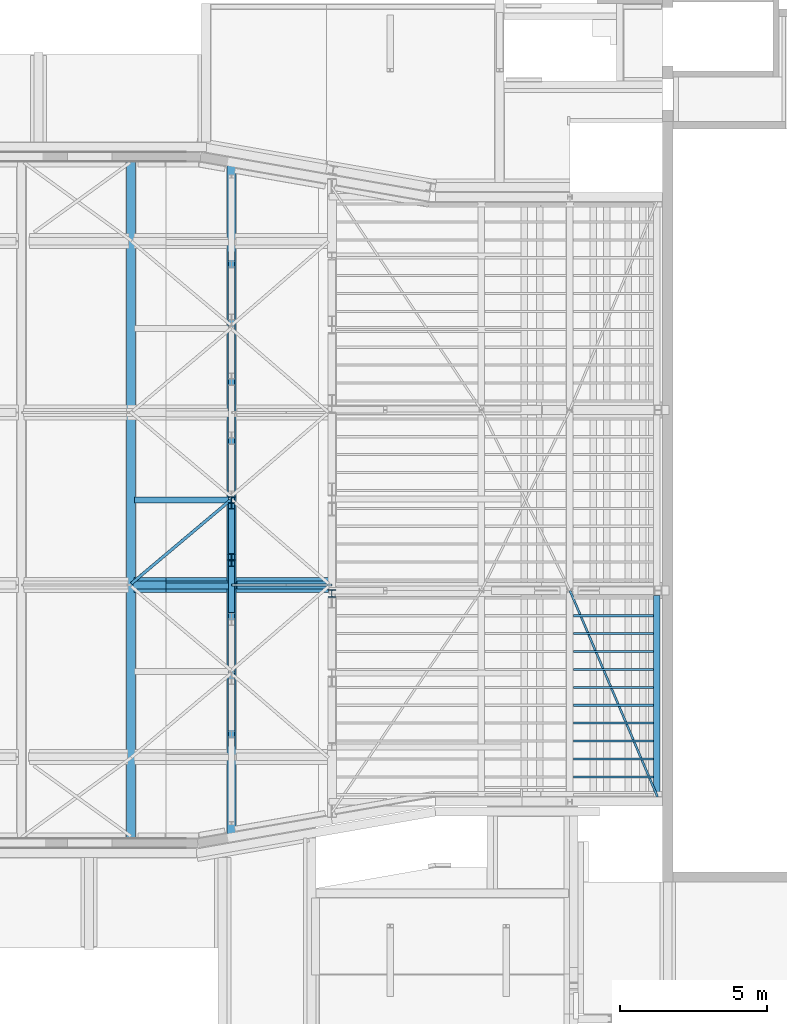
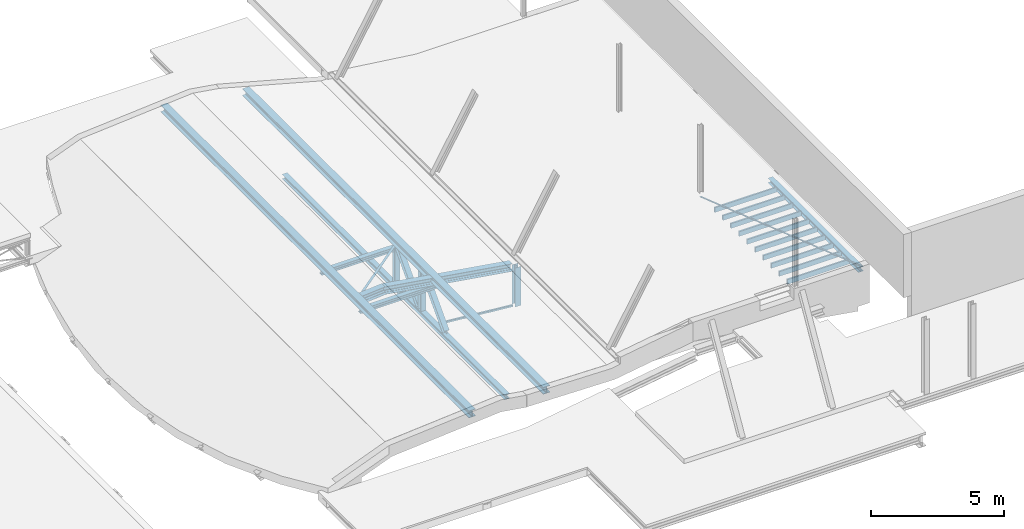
# One storey, part 27 of 50: 27 beams.
"""IFC2X3 building model written with IfcOpenShell, lengths in millimetres."""

from ifc_helpers import new_model, entity, si_unit, converted_unit, derived_unit, direction, frame, frame_2d, origin, place, context, subcontext, project, spatial, polyline, circle_curve, parameter, trimmed, segment, composite_curve, rectangle, i_section, outline, extrude, clip, halfspace, source, transform, mapped, material, material_list, type_object, type_shapes, element, save


model = new_model("IFC2X3")

# Units and contexts
model_context = context("Model", 3, precision=0.01, world=origin(), true_north=direction((6.12303176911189e-17, 1.0)))
body_context = subcontext(model_context, "Body", "Model", "MODEL_VIEW")
ifc_project = project(units=[si_unit("LENGTHUNIT", "METRE", prefix="MILLI"), si_unit("AREAUNIT", "SQUARE_METRE", prefix="MILLI"), si_unit("VOLUMEUNIT", "CUBIC_METRE"), converted_unit("PLANEANGLEUNIT", "DEGREE", entity("IfcRatioMeasure", 0.0174532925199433), si_unit("PLANEANGLEUNIT", "RADIAN"), dimensions=[0, 0, 0, 0, 0, 0, 0]), si_unit("MASSUNIT", "GRAM", prefix="KILO"), derived_unit("MASSDENSITYUNIT", [(si_unit("MASSUNIT", "GRAM", prefix="KILO"), 1), (si_unit("LENGTHUNIT", "METRE"), -3)]), derived_unit("MOMENTOFINERTIAUNIT", [(si_unit("LENGTHUNIT", "METRE"), 4)]), si_unit("TIMEUNIT", "SECOND"), si_unit("FREQUENCYUNIT", "HERTZ"), si_unit("THERMODYNAMICTEMPERATUREUNIT", "DEGREE_CELSIUS"), derived_unit("THERMALTRANSMITTANCEUNIT", [(si_unit("MASSUNIT", "GRAM", prefix="KILO"), 1), (si_unit("THERMODYNAMICTEMPERATUREUNIT", "KELVIN"), -1), (si_unit("TIMEUNIT", "SECOND"), -3)]), derived_unit("VOLUMETRICFLOWRATEUNIT", [(si_unit("LENGTHUNIT", "METRE"), 3), (si_unit("TIMEUNIT", "SECOND"), -1)]), si_unit("ELECTRICCURRENTUNIT", "AMPERE"), si_unit("ELECTRICVOLTAGEUNIT", "VOLT"), si_unit("POWERUNIT", "WATT"), si_unit("FORCEUNIT", "NEWTON", prefix="KILO"), si_unit("ILLUMINANCEUNIT", "LUX"), si_unit("LUMINOUSFLUXUNIT", "LUMEN"), si_unit("LUMINOUSINTENSITYUNIT", "CANDELA"), derived_unit("USERDEFINED", [(si_unit("MASSUNIT", "GRAM", prefix="KILO"), -1), (si_unit("LENGTHUNIT", "METRE"), -2), (si_unit("TIMEUNIT", "SECOND"), 3), (si_unit("LUMINOUSFLUXUNIT", "LUMEN"), 1)]), derived_unit("LINEARVELOCITYUNIT", [(si_unit("LENGTHUNIT", "METRE"), 1), (si_unit("TIMEUNIT", "SECOND"), -1)]), si_unit("PRESSUREUNIT", "PASCAL"), derived_unit("USERDEFINED", [(si_unit("LENGTHUNIT", "METRE"), -2), (si_unit("MASSUNIT", "GRAM", prefix="KILO"), 1), (si_unit("TIMEUNIT", "SECOND"), -2)]), derived_unit("LINEARFORCEUNIT", [(si_unit("MASSUNIT", "GRAM", prefix="KILO"), 1), (si_unit("LENGTHUNIT", "METRE"), 1), (si_unit("TIMEUNIT", "SECOND"), -2), (si_unit("LENGTHUNIT", "METRE"), -1)]), derived_unit("PLANARFORCEUNIT", [(si_unit("MASSUNIT", "GRAM", prefix="KILO"), 1), (si_unit("LENGTHUNIT", "METRE"), 1), (si_unit("TIMEUNIT", "SECOND"), -2), (si_unit("LENGTHUNIT", "METRE"), -2)])], contexts=[model_context])

# Site, building, storey
site_placement = place(None, origin())
site = spatial("IfcSite", under=ifc_project, at=site_placement, Name="Theater aan de Parade", CompositionType="ELEMENT")
building_placement = place(site_placement, origin())
building = spatial("IfcBuilding", under=site, at=building_placement, Name="Theater aan de Parade", CompositionType="ELEMENT")
storey_placement = place(building_placement, frame((0.0, 0.0, 15820.0)))
storey = spatial("IfcBuildingStorey", under=building, at=storey_placement, Name="04 vierde verdieping", CompositionType="ELEMENT", Elevation=15820.0)

# Beams
ifc_material_1 = material(Name="00_PBT_MAT_staal_S355")
beam_type_1 = type_object("IfcBeamType", Name="28_PBT_SF_staal_H-profiel:S355_HE220B", PredefinedType="NOTDEFINED")
beam_1_placement = place(storey_placement, frame((52739.1873742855, 24480.2202940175, -650.0), z_axis=(0.0, 0.0, 1.0), x_axis=(0.0, 1.0, 0.0)))
element("IfcBeam", 1, at=beam_1_placement, inside=storey, type_object=beam_type_1, material=ifc_material_1, Name="28_PBT_SF_staal_H-profiel:S355_HE220B", ObjectType="28_PBT_SF_staal_H-profiel:S355_HE220B", context=body_context, shape_type="SweptSolid", body=[
    extrude(i_section(OverallWidth=220.000000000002, OverallDepth=220.0, WebThickness=9.49999999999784, FlangeThickness=15.9999999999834, FilletRadius=17.9999999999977, at=frame_2d((-3.24718030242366e-12, -8.66862137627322e-12), x_axis=(0.0, 1.0))), frame((-421.121382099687, 0.0, 0.0), z_axis=(1.0, 0.0, 0.0), x_axis=(0.0, 0.0, -1.0)), (0.0, 0.0, 1.0), 16782.6370772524),
])
beam_type_2 = type_object("IfcBeamType", Name="28_PBT_SF_staal_H-profiel:S355_HE220A", PredefinedType="NOTDEFINED")
beam_2_placement = place(storey_placement, frame((67166.05603639, 29346.916549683, 0.0), z_axis=(0.0, 0.0, 1.0), x_axis=(0.0, -1.0, 0.0)))
element("IfcBeam", 2, at=beam_2_placement, inside=storey, type_object=beam_type_2, material=ifc_material_1, Name="28_PBT_SF_staal_H-profiel:S355_HE220A", ObjectType="28_PBT_SF_staal_H-profiel:S355_HE220A", context=body_context, shape_type="SweptSolid", body=[
    extrude(outline(composite_curve([segment(polyline([(94.0, -110.0), (105.0, -110.0)]), True, "CONTINUOUS"), segment(polyline([(105.0, -110.0), (105.0, 110.0)]), True, "CONTINUOUS"), segment(polyline([(105.0, 110.0), (94.0, 110.0)]), True, "CONTINUOUS"), segment(polyline([(94.0, 110.0), (94.0, 21.4999999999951)]), True, "CONTINUOUS"), segment(trimmed(circle_curve(frame_2d((76.0, 21.4999999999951), x_axis=(1.0, 0.0)), 17.9999999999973), [parameter(269.999999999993)], [parameter(0.0)], True, "PARAMETER"), False, "CONTINUOUS"), segment(polyline([(76.0, 3.49999999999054), (-76.0, 3.49999999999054)]), True, "CONTINUOUS"), segment(trimmed(circle_curve(frame_2d((-76.0, 21.4999999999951), x_axis=(0.0, -1.0)), 17.9999999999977), [parameter(269.999999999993)], [parameter(0.0)], True, "PARAMETER"), False, "CONTINUOUS"), segment(polyline([(-94.0, 21.4999999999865), (-94.0, 110.0)]), True, "CONTINUOUS"), segment(polyline([(-94.0, 110.0), (-105.0, 110.0)]), True, "CONTINUOUS"), segment(polyline([(-105.0, 110.0), (-105.0, -110.0)]), True, "CONTINUOUS"), segment(polyline([(-105.0, -110.0), (-94.0, -110.0)]), True, "CONTINUOUS"), segment(polyline([(-94.0, -110.0), (-94.0, -21.5000000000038)]), True, "CONTINUOUS"), segment(trimmed(circle_curve(frame_2d((-76.0, -21.5000000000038), x_axis=(-1.0, 0.0)), 17.9999999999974), [parameter(269.999999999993)], [parameter(0.0)], True, "PARAMETER"), False, "CONTINUOUS"), segment(polyline([(-76.0, -3.50000000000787), (76.0, -3.50000000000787)]), True, "CONTINUOUS"), segment(trimmed(circle_curve(frame_2d((76.0, -21.5000000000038), x_axis=(0.0, 1.0)), 17.9999999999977), [parameter(269.999999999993)], [parameter(0.0)], True, "PARAMETER"), False, "CONTINUOUS"), segment(polyline([(94.0, -21.5000000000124), (94.0, -110.0)]), True, "CONTINUOUS")], self_intersect=False)), frame((162.699999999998, 0.0, 1195.0), z_axis=(1.0, 0.0, 0.0), x_axis=(0.0, 0.0, -1.0)), (0.0, 0.0, 1.0), 6831.51654968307),
])
beam_3_placement = place(storey_placement, frame((52739.1873742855, 32420.0, -650.0), z_axis=(1.0, 0.0, 0.0), x_axis=(0.0, 0.0, 1.0)))
element("IfcBeam", 3, at=beam_3_placement, inside=storey, type_object=beam_type_2, material=ifc_material_1, Name="28_PBT_SF_staal_H-profiel:S355_HE220A", ObjectType="28_PBT_SF_staal_H-profiel:S355_HE220A", context=body_context, shape_type="SweptSolid", body=[
    extrude(i_section(OverallWidth=220.000000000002, OverallDepth=210.000000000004, WebThickness=6.99999999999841, FlangeThickness=10.9999999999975, FilletRadius=17.9999999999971, at=frame_2d((8.66862137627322e-12, -8.66862137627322e-12), x_axis=(1.0, 0.0))), frame((122.700000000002, 0.0, 0.0), z_axis=(1.0, 0.0, 0.0), x_axis=(0.0, 0.0, -1.0)), (0.0, 0.0, 1.0), 1834.6),
])
beam_4_placement = place(storey_placement, frame((52739.1873742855, 30480.2202940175, -650.0), z_axis=(1.0, 0.0, 0.0), x_axis=(0.0, 0.0, 1.0)))
element("IfcBeam", 4, at=beam_4_placement, inside=storey, type_object=beam_type_2, material=ifc_material_1, Name="28_PBT_SF_staal_H-profiel:S355_HE220A", ObjectType="28_PBT_SF_staal_H-profiel:S355_HE220A", context=body_context, shape_type="SweptSolid", body=[
    extrude(i_section(OverallWidth=220.000000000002, OverallDepth=210.000000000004, WebThickness=6.99999999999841, FlangeThickness=10.9999999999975, FilletRadius=17.9999999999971, at=frame_2d((8.66862137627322e-12, 0.0), x_axis=(1.0, 0.0))), frame((122.700000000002, 0.0, 0.0), z_axis=(1.0, 0.0, 0.0), x_axis=(0.0, 0.0, -1.0)), (0.0, 0.0, 1.0), 1834.6),
])
beam_5_placement = place(storey_placement, frame((52739.1873742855, 30480.2202940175, -650.0), z_axis=(1.0, 0.0, 0.0), x_axis=(0.0, 0.673321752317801, 0.739349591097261)))
element("IfcBeam", 5, at=beam_5_placement, inside=storey, type_object=beam_type_2, material=ifc_material_1, Name="28_PBT_SF_staal_H-profiel:S355_HE220A", ObjectType="28_PBT_SF_staal_H-profiel:S355_HE220A", context=body_context, shape_type="Clipping", body=[
    clip(clip(clip(clip(extrude(i_section(OverallWidth=220.000000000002, OverallDepth=210.000000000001, WebThickness=6.99999999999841, FlangeThickness=10.9999999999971, FilletRadius=17.9999999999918, at=frame_2d((8.66862137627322e-12, -6.12487838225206e-12), x_axis=(1.0, 0.0))), frame((180.280665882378, 0.0, 0.0), z_axis=(1.0, 0.0, 0.0), x_axis=(0.0, 0.0, -1.0)), (0.0, 0.0, 1.0), 2483.38168846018), halfspace(frame((-4240.83168904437, 4849.77228786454, 130.0), z_axis=(-0.73934959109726, -0.673321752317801, 0.0), x_axis=(0.673321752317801, -0.73934959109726, 0.0)), False)), halfspace(frame((160.09642204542, -23.2685549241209, -130.0), z_axis=(-0.673321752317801, 0.739349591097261, 0.0), x_axis=(0.739349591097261, 0.673321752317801, 0.0)), False)), halfspace(frame((1297.86185470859, -1272.60648958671, 130.0), z_axis=(0.673321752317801, -0.739349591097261, 0.0), x_axis=(0.739349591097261, 0.673321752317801, 0.0)), False)), halfspace(frame((-4906.86453641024, 8284.13499098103, -170.0), z_axis=(0.739349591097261, 0.673321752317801, 0.0), x_axis=(0.673321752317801, -0.739349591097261, 0.0)), False)),
])
beam_6_placement = place(storey_placement, frame((52739.1873742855, 28480.2202940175, -650.0), z_axis=(1.0, 0.0, 0.0), x_axis=(0.0, 0.684510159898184, 0.72900332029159)))
element("IfcBeam", 6, at=beam_6_placement, inside=storey, type_object=beam_type_2, material=ifc_material_1, Name="28_PBT_SF_staal_H-profiel:S355_HE220A", ObjectType="28_PBT_SF_staal_H-profiel:S355_HE220A", context=body_context, shape_type="Clipping", body=[
    clip(clip(clip(clip(extrude(i_section(OverallWidth=220.000000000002, OverallDepth=209.999999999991, WebThickness=6.99999999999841, FlangeThickness=10.9999999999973, FilletRadius=17.9999999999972, at=frame_2d((8.66862137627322e-12, -1.22497567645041e-11), x_axis=(1.0, 0.0))), frame((180.334201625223, 0.0, 0.0), z_axis=(1.0, 0.0, 0.0), x_axis=(0.0, 0.0, -1.0)), (0.0, 0.0, 1.0), 2524.67882275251), halfspace(frame((-2945.22227575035, 3326.57855415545, 130.0), z_axis=(-0.729003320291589, -0.684510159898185, 0.0), x_axis=(0.684510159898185, -0.729003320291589, 0.0)), False)), halfspace(frame((160.432410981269, -20.8262216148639, -130.0), z_axis=(-0.684510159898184, 0.72900332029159, 0.0), x_axis=(0.72900332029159, 0.684510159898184, 0.0)), False)), halfspace(frame((1358.32519080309, -1296.58203212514, 130.0), z_axis=(0.684510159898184, -0.72900332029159, 0.0), x_axis=(0.72900332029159, 0.684510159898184, 0.0)), False)), halfspace(frame((-3663.51237141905, 6750.39313277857, -170.0), z_axis=(0.72900332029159, 0.684510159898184, 0.0), x_axis=(0.684510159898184, -0.72900332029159, 0.0)), False)),
])
beam_type_3 = type_object("IfcBeamType", Name="28_PBT_SF_staal_H-profiel:S355_HE200A", PredefinedType="NOTDEFINED")
beam_7_placement = place(storey_placement, frame((52889.1873742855, 29510.0, 0.0), z_axis=(0.0, 0.0, 1.0), x_axis=(-1.0, 0.0, 0.0)))
element("IfcBeam", 7, at=beam_7_placement, inside=storey, type_object=beam_type_3, material=ifc_material_1, Name="28_PBT_SF_staal_H-profiel:S355_HE200A", ObjectType="28_PBT_SF_staal_H-profiel:S355_HE200A", context=body_context, shape_type="SweptSolid", body=[
    extrude(i_section(OverallWidth=199.999999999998, OverallDepth=190.0, WebThickness=6.50000000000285, FlangeThickness=9.99999999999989, FilletRadius=18.0000000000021, at=frame_2d((2.16715534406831e-12, 2.16715534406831e-12), x_axis=(0.0, 1.0))), frame((0.0, 0.0, 1165.0), z_axis=(1.0, 0.0, 0.0), x_axis=(0.0, 0.0, -1.0)), (0.0, 0.0, 1.0), 3432.76164612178),
])
beam_8_placement = place(storey_placement, frame((52629.1873742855, 32420.0, 0.0), z_axis=(0.0, 0.0, 1.0), x_axis=(-1.0, 0.0, 0.0)))
element("IfcBeam", 8, at=beam_8_placement, inside=storey, type_object=beam_type_3, material=ifc_material_1, Name="28_PBT_SF_staal_H-profiel:S355_HE200A", ObjectType="28_PBT_SF_staal_H-profiel:S355_HE200A", context=body_context, shape_type="SweptSolid", body=[
    extrude(i_section(OverallWidth=199.999999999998, OverallDepth=190.0, WebThickness=6.50000000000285, FlangeThickness=9.99999999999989, FilletRadius=18.0000000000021, at=frame_2d((2.16715534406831e-12, 2.16715534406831e-12), x_axis=(0.0, 1.0))), frame((0.0, 0.0, 1165.0), z_axis=(1.0, 0.0, 0.0), x_axis=(0.0, 0.0, -1.0)), (0.0, 0.0, 1.0), 3184.18737428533),
])
ifc_material_2 = material(Name="00_PBT_MAT_Lucht")
ifc_material_list_1 = material_list([ifc_material_1, ifc_material_2])
beam_type_4 = type_object("IfcBeamType", Name="28_PBT_SF_staal_H-profiel_met_onderplaat (void):S355_HE260A + onderplaat d=12", PredefinedType="BEAM", material=ifc_material_list_1)
shared_shape_1 = source(origin(), body_context, "Body", "SweptSolid", [
    extrude(rectangle(XDim=12.0, YDim=510.0, at=frame_2d((5.07593966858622e-13, -1.4210854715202e-14), x_axis=(1.0, 0.0))), frame((-1590.0, 0.0, -131.0), z_axis=(1.0, 0.0, 0.0), x_axis=(0.0, 0.0, -1.0)), (0.0, 0.0, 1.0), 3180.0),
    extrude(i_section(OverallWidth=260.0, OverallDepth=250.0, WebThickness=7.49999999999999, FlangeThickness=12.4999999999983, FilletRadius=24.0, at=frame_2d((-4.12114786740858e-13, 0.0), x_axis=(0.0, 1.0))), frame((-1590.0, 0.0, 0.0), z_axis=(1.0, 0.0, 0.0), x_axis=(0.0, 0.0, -1.0)), (0.0, 0.0, 1.0), 3180.0),
])
type_shapes(beam_type_4, [shared_shape_1])
beam_9_placement = place(storey_placement, frame((54484.223271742, 29537.9879914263, 1188.53047227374), z_axis=(0.156434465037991, 0.0, 0.987688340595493), x_axis=(0.987688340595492, 0.0, -0.156434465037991)))
element("IfcBeam", 9, at=beam_9_placement, inside=storey, type_object=beam_type_4, material=ifc_material_1, Name="28_PBT_SF_staal_H-profiel_met_onderplaat (void):S355_HE260A + onderplaat d=12", ObjectType="28_PBT_SF_staal_H-profiel_met_onderplaat (void):S355_HE260A + onderplaat d=12", context=body_context, shape_type="MappedRepresentation", body=[
    mapped(shared_shape_1, transform((0.0, 0.0, 0.0), scale=1.0)),
])
ifc_material_3 = material(Name="00_PBT_MAT_staal")
beam_type_5 = type_object("IfcBeamType", Name="28_PBT_SF_staal_strip:strip 100x10", PredefinedType="NOTDEFINED")
beam_10_placement = place(storey_placement, frame((49341.9024959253, 29584.2106497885, 1589.46746619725), z_axis=(0.045084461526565, 0.0379427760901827, 0.99826235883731), x_axis=(0.763774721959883, 0.642787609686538, -0.0589259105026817)))
element("IfcBeam", 10, at=beam_10_placement, inside=storey, type_object=beam_type_5, material=ifc_material_3, Name="28_PBT_SF_staal_strip:strip 100x10", ObjectType="28_PBT_SF_staal_strip:strip 100x10", context=body_context, shape_type="SweptSolid", body=[
    extrude(rectangle(XDim=9.99999999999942, YDim=100.000000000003, at=frame_2d((0.0, 0.0), x_axis=(0.0, 1.0))), frame((0.0, 0.247653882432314, -4.99386298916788), z_axis=(1.0, 0.0, 0.0), x_axis=(0.0, -0.998772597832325, -0.0495307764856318)), (0.0, 0.0, 1.0), 4430.68427961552),
])
ifc_material_list_2 = material_list([ifc_material_2, ifc_material_1])
beam_type_6 = type_object("IfcBeamType", Name="28_PBT_SF_staal_H-profiel_met_onderplaat (void):S355_HE260A + onderplaat d=12", PredefinedType="BEAM", material=ifc_material_list_2)
shared_shape_2 = source(origin(), body_context, "Body", "Clipping", [
    clip(extrude(i_section(OverallWidth=260.000000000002, OverallDepth=250.000000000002, WebThickness=7.50000000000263, FlangeThickness=12.5000000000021, FilletRadius=23.9999999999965, at=frame_2d((-2.1600499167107e-12, 3.21875859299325e-12), x_axis=(1.0, 0.0))), frame((50495.0112438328, 29537.9879914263, 17640.3595866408), z_axis=(0.987688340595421, 0.0, -0.156434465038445), x_axis=(0.0, 1.0, 0.0)), (0.0, 0.0, 1.0), 2131.09008589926), halfspace(frame((50514.5655519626, 32410.0, 23110.0), z_axis=(-1.0, 0.0, 0.0), x_axis=(0.0, 0.0, 1.0)), False)),
    clip(extrude(rectangle(XDim=12.0000000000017, YDim=510.000000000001, at=frame_2d((-2.1600499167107e-12, 1.0689227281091e-12), x_axis=(0.0, 1.0))), frame((50513.6269451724, 29537.9879914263, 17504.7782177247), z_axis=(0.987688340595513, 0.0, -0.156434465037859), x_axis=(0.0, 1.0, 0.0)), (0.0, 0.0, 1.0), 2091.49397581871), halfspace(frame((50514.5655519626, 32410.0, 23110.0), z_axis=(-1.0, 0.0, 0.0), x_axis=(0.0, 0.0, 1.0)), False)),
])
type_shapes(beam_type_6, [shared_shape_2])
beam_11_placement = place(storey_placement, frame((0.0, 0.0, -15820.0)))
element("IfcBeam", 11, at=beam_11_placement, inside=storey, type_object=beam_type_6, material=ifc_material_1, Name="28_PBT_SF_staal_H-profiel_met_onderplaat (void):S355_HE260A + onderplaat d=12", ObjectType="28_PBT_SF_staal_H-profiel_met_onderplaat (void):S355_HE260A + onderplaat d=12", context=body_context, shape_type="MappedRepresentation", body=[
    mapped(shared_shape_2, transform((0.0, 0.0, 0.0), scale=1.0)),
])
ifc_material_list_3 = material_list([ifc_material_1, ifc_material_2])
beam_type_7 = type_object("IfcBeamType", Name="28_PBT_SF_staal_H-profiel_met_onderplaat (void):S355_HE260A + onderplaat d=12", PredefinedType="BEAM", material=ifc_material_list_3)
shared_shape_3 = source(origin(), body_context, "Body", "Clipping", [
    clip(extrude(i_section(OverallWidth=260.000000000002, OverallDepth=250.0, WebThickness=7.50000000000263, FlangeThickness=12.499999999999, FilletRadius=23.9999999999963, at=frame_2d((6.49436060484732e-12, 1.08002495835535e-12), x_axis=(1.0, 0.0))), frame((49416.4124148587, 29537.9879914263, 17553.5190495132), z_axis=(0.996820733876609, 0.0, 0.079677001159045), x_axis=(0.0, -1.0, 0.0)), (0.0, 0.0, 1.0), 1111.64698384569), halfspace(frame((50514.5655519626, 32410.0, 23110.0), z_axis=(1.0, 0.0, 0.0), x_axis=(0.0, 0.0, 1.0)), False)),
    clip(extrude(rectangle(XDim=11.9999999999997, YDim=510.000000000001, at=frame_2d((2.1600499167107e-12, 1.07913677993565e-12), x_axis=(0.0, 1.0))), frame((49426.8501020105, 29537.9879914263, 17422.9355333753), z_axis=(0.99682073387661, 0.0, 0.0796770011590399), x_axis=(0.0, -1.0, 0.0)), (0.0, 0.0, 1.0), 1091.66420297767), halfspace(frame((50514.5655519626, 32410.0, 23110.0), z_axis=(1.0, 0.0, 0.0), x_axis=(0.0, 0.0, 1.0)), False)),
])
type_shapes(beam_type_7, [shared_shape_3])
beam_12_placement = place(storey_placement, frame((0.0, 0.0, -15820.0)))
element("IfcBeam", 12, at=beam_12_placement, inside=storey, type_object=beam_type_7, material=ifc_material_1, Name="28_PBT_SF_staal_H-profiel_met_onderplaat (void):S355_HE260A + onderplaat d=12", ObjectType="28_PBT_SF_staal_H-profiel_met_onderplaat (void):S355_HE260A + onderplaat d=12", context=body_context, shape_type="MappedRepresentation", body=[
    mapped(shared_shape_3, transform((0.0, 0.0, 0.0), scale=1.0)),
])
ifc_material_4 = material(Name="00_PBT_MAT_hout")
beam_type_8 = type_object("IfcBeamType", Name="28_PBT_SF_rechthoekig hout:70x220", PredefinedType="NOTDEFINED")
beam_13_placement = place(storey_placement, frame((67166.05603639, 23032.0, 0.0), z_axis=(0.0, 0.0, 1.0), x_axis=(-1.0, 0.0, 0.0)))
element("IfcBeam", 13, at=beam_13_placement, inside=storey, type_object=beam_type_8, material=ifc_material_4, Name="28_PBT_SF_rechthoekig hout:70x220", ObjectType="28_PBT_SF_rechthoekig hout:70x220", context=body_context, shape_type="SweptSolid", body=[
    extrude(rectangle(XDim=220.0, YDim=70.0000000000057, at=frame_2d((1.08002495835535e-12, 2.16715534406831e-12), x_axis=(1.0, 0.0))), frame((122.700000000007, 0.0, 1212.0), z_axis=(1.0, 0.0, 0.0), x_axis=(0.0, 0.0, -1.0)), (0.0, 0.0, 1.0), 2704.6),
])
beam_14_placement = place(storey_placement, frame((67166.05603639, 23639.0, 0.0), z_axis=(0.0, 0.0, 1.0), x_axis=(-1.0, 0.0, 0.0)))
element("IfcBeam", 14, at=beam_14_placement, inside=storey, type_object=beam_type_8, material=ifc_material_4, Name="28_PBT_SF_rechthoekig hout:70x220", ObjectType="28_PBT_SF_rechthoekig hout:70x220", context=body_context, shape_type="SweptSolid", body=[
    extrude(rectangle(XDim=220.0, YDim=70.0000000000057, at=frame_2d((1.08002495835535e-12, -2.16715534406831e-12), x_axis=(1.0, 0.0))), frame((122.700000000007, 0.0, 1212.0), z_axis=(1.0, 0.0, 0.0), x_axis=(0.0, 0.0, -1.0)), (0.0, 0.0, 1.0), 2704.6),
])
beam_15_placement = place(storey_placement, frame((67166.05603639, 24246.0, 0.0), z_axis=(0.0, 0.0, 1.0), x_axis=(-1.0, 0.0, 0.0)))
element("IfcBeam", 15, at=beam_15_placement, inside=storey, type_object=beam_type_8, material=ifc_material_4, Name="28_PBT_SF_rechthoekig hout:70x220", ObjectType="28_PBT_SF_rechthoekig hout:70x220", context=body_context, shape_type="SweptSolid", body=[
    extrude(rectangle(XDim=220.0, YDim=70.0000000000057, at=frame_2d((1.08002495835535e-12, 2.16715534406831e-12), x_axis=(1.0, 0.0))), frame((122.700000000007, 0.0, 1212.0), z_axis=(1.0, 0.0, 0.0), x_axis=(0.0, 0.0, -1.0)), (0.0, 0.0, 1.0), 2704.6),
])
beam_16_placement = place(storey_placement, frame((67166.05603639, 24853.0, 0.0), z_axis=(0.0, 0.0, 1.0), x_axis=(-1.0, 0.0, 0.0)))
element("IfcBeam", 16, at=beam_16_placement, inside=storey, type_object=beam_type_8, material=ifc_material_4, Name="28_PBT_SF_rechthoekig hout:70x220", ObjectType="28_PBT_SF_rechthoekig hout:70x220", context=body_context, shape_type="SweptSolid", body=[
    extrude(rectangle(XDim=220.0, YDim=70.0000000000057, at=frame_2d((1.08002495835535e-12, -2.16715534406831e-12), x_axis=(1.0, 0.0))), frame((122.700000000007, 0.0, 1212.0), z_axis=(1.0, 0.0, 0.0), x_axis=(0.0, 0.0, -1.0)), (0.0, 0.0, 1.0), 2704.6),
])
beam_17_placement = place(storey_placement, frame((67166.05603639, 25460.0, 0.0), z_axis=(0.0, 0.0, 1.0), x_axis=(-1.0, 0.0, 0.0)))
element("IfcBeam", 17, at=beam_17_placement, inside=storey, type_object=beam_type_8, material=ifc_material_4, Name="28_PBT_SF_rechthoekig hout:70x220", ObjectType="28_PBT_SF_rechthoekig hout:70x220", context=body_context, shape_type="SweptSolid", body=[
    extrude(rectangle(XDim=220.0, YDim=70.0000000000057, at=frame_2d((1.08002495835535e-12, 2.16715534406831e-12), x_axis=(1.0, 0.0))), frame((122.700000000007, 0.0, 1212.0), z_axis=(1.0, 0.0, 0.0), x_axis=(0.0, 0.0, -1.0)), (0.0, 0.0, 1.0), 2704.6),
])
beam_18_placement = place(storey_placement, frame((67166.05603639, 26067.0, 0.0), z_axis=(0.0, 0.0, 1.0), x_axis=(-1.0, 0.0, 0.0)))
element("IfcBeam", 18, at=beam_18_placement, inside=storey, type_object=beam_type_8, material=ifc_material_4, Name="28_PBT_SF_rechthoekig hout:70x220", ObjectType="28_PBT_SF_rechthoekig hout:70x220", context=body_context, shape_type="SweptSolid", body=[
    extrude(rectangle(XDim=220.0, YDim=70.0000000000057, at=frame_2d((1.08002495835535e-12, -2.16715534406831e-12), x_axis=(1.0, 0.0))), frame((122.700000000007, 0.0, 1212.0), z_axis=(1.0, 0.0, 0.0), x_axis=(0.0, 0.0, -1.0)), (0.0, 0.0, 1.0), 2704.6),
])
beam_19_placement = place(storey_placement, frame((67166.05603639, 26674.0, 0.0), z_axis=(0.0, 0.0, 1.0), x_axis=(-1.0, 0.0, 0.0)))
element("IfcBeam", 19, at=beam_19_placement, inside=storey, type_object=beam_type_8, material=ifc_material_4, Name="28_PBT_SF_rechthoekig hout:70x220", ObjectType="28_PBT_SF_rechthoekig hout:70x220", context=body_context, shape_type="SweptSolid", body=[
    extrude(rectangle(XDim=220.0, YDim=70.0000000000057, at=frame_2d((1.08002495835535e-12, 2.16715534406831e-12), x_axis=(1.0, 0.0))), frame((122.700000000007, 0.0, 1212.0), z_axis=(1.0, 0.0, 0.0), x_axis=(0.0, 0.0, -1.0)), (0.0, 0.0, 1.0), 2704.6),
])
beam_20_placement = place(storey_placement, frame((67166.05603639, 27281.0, 0.0), z_axis=(0.0, 0.0, 1.0), x_axis=(-1.0, 0.0, 0.0)))
element("IfcBeam", 20, at=beam_20_placement, inside=storey, type_object=beam_type_8, material=ifc_material_4, Name="28_PBT_SF_rechthoekig hout:70x220", ObjectType="28_PBT_SF_rechthoekig hout:70x220", context=body_context, shape_type="SweptSolid", body=[
    extrude(rectangle(XDim=220.0, YDim=70.0000000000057, at=frame_2d((1.08002495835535e-12, -2.16715534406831e-12), x_axis=(1.0, 0.0))), frame((122.700000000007, 0.0, 1212.0), z_axis=(1.0, 0.0, 0.0), x_axis=(0.0, 0.0, -1.0)), (0.0, 0.0, 1.0), 2704.6),
])
for number, where, z_axis, x_axis, name in (
    (21, (67166.05603639, 27888.0, 0.0), (0.0, 0.0, 1.0), (-1.0, 0.0, 0.0), "28_PBT_SF_rechthoekig hout:70x220"),
    (22, (67166.05603639, 28495.0, 0.0), (0.0, 0.0, 1.0), (-1.0, 0.0, 0.0), "28_PBT_SF_rechthoekig hout:70x220"),
):
    element("IfcBeam", number, at=place(storey_placement, frame(where, z_axis=z_axis, x_axis=x_axis)), inside=storey, type_object=beam_type_8, material=ifc_material_4, Name=name, ObjectType="28_PBT_SF_rechthoekig hout:70x220", context=body_context, shape_type="SweptSolid", body=[
        extrude(rectangle(XDim=220.0, YDim=70.0000000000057, at=frame_2d((1.08002495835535e-12, 2.16715534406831e-12), x_axis=(1.0, 0.0))), frame((122.700000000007, 0.0, 1212.0), z_axis=(1.0, 0.0, 0.0), x_axis=(0.0, 0.0, -1.0)), (0.0, 0.0, 1.0), 2704.6),
    ])
beam_type_9 = type_object("IfcBeamType", Name="28_PBT_SF_staal_strip:strip 70x7", PredefinedType="NOTDEFINED")
beam_21_placement = place(storey_placement, frame((67187.55603639, 22352.6999999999, 0.0), z_axis=(0.0, 0.0, 1.0), x_axis=(-0.390882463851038, 0.920440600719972, 0.0)))
element("IfcBeam", 23, at=beam_21_placement, inside=storey, type_object=beam_type_9, material=ifc_material_3, Name="28_PBT_SF_staal_strip:strip 70x7", ObjectType="28_PBT_SF_staal_strip:strip 70x7", context=body_context, shape_type="SweptSolid", body=[
    extrude(rectangle(XDim=6.99999999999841, YDim=70.0000000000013, at=frame_2d((1.08291153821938e-12, 0.0), x_axis=(1.0, 0.0))), frame((0.0, 0.0, 1349.5), z_axis=(1.0, 0.0, 0.0), x_axis=(0.0, 0.0, -1.0)), (0.0, 0.0, 1.0), 7602.02944569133),
])
beam_type_10 = type_object("IfcBeamType", Name="28_PBT_SF_staal_H-profiel:S355_HE320B", PredefinedType="NOTDEFINED")
beam_22_placement = place(storey_placement, frame((52739.1873742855, 20880.2202940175, 1480.0), z_axis=(0.0, 0.0, 1.0), x_axis=(0.0, 1.0, 0.0)))
element("IfcBeam", 24, at=beam_22_placement, inside=storey, type_object=beam_type_10, material=ifc_material_1, Name="28_PBT_SF_staal_H-profiel:S355_HE320B", ObjectType="28_PBT_SF_staal_H-profiel:S355_HE320B", context=body_context, shape_type="SweptSolid", body=[
    extrude(i_section(OverallWidth=300.000000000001, OverallDepth=320.000000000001, WebThickness=11.4999999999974, FlangeThickness=20.4999999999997, FilletRadius=27.0000000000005, at=frame_2d((2.17426077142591e-12, 0.0), x_axis=(0.0, 1.0))), frame((191.229553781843, 0.0, 0.0), z_axis=(1.0, 0.0, 0.0), x_axis=(0.0, 0.0, -1.0)), (0.0, 0.0, 1.0), 22697.1003044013),
])
beam_23_placement = place(storey_placement, frame((49335.0, 20630.0, 1750.0), z_axis=(0.0, 0.0, 1.0), x_axis=(0.0, 1.0, 0.0)))
element("IfcBeam", 25, at=beam_23_placement, inside=storey, type_object=beam_type_10, material=ifc_material_1, Name="28_PBT_SF_staal_H-profiel:S355_HE320B", ObjectType="28_PBT_SF_staal_H-profiel:S355_HE320B", context=body_context, shape_type="SweptSolid", body=[
    extrude(i_section(OverallWidth=300.000000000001, OverallDepth=320.000000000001, WebThickness=11.4999999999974, FlangeThickness=20.4999999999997, FilletRadius=27.0000000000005, at=frame_2d((-2.17426077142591e-12, 0.0), x_axis=(0.0, 1.0))), frame((162.699999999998, 0.0, 0.0), z_axis=(1.0, 0.0, 0.0), x_axis=(0.0, 0.0, -1.0)), (0.0, 0.0, 1.0), 23254.6),
])
beam_type_11 = type_object("IfcBeamType", Name="28_PBT_SF_staal_H-profiel:S355_HE260A", PredefinedType="NOTDEFINED")
beam_24_placement = place(storey_placement, frame((56143.3747485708, 29250.0, -960.0), z_axis=(1.0, 0.0, 0.0), x_axis=(0.0, 0.0, 1.0)))
element("IfcBeam", 26, at=beam_24_placement, inside=storey, type_object=beam_type_11, material=ifc_material_1, Name="28_PBT_SF_staal_H-profiel:S355_HE260A", ObjectType="28_PBT_SF_staal_H-profiel:S355_HE260A", context=body_context, shape_type="SweptSolid", body=[
    extrude(i_section(OverallWidth=260.000000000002, OverallDepth=249.999999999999, WebThickness=7.49999999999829, FlangeThickness=12.4999999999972, FilletRadius=24.0000000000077, at=frame_2d((4.32009983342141e-12, -2.16715534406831e-12), x_axis=(1.0, 0.0))), frame((212.699999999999, 0.0, 0.0), z_axis=(1.0, 0.0, 0.0), x_axis=(0.0, 0.0, -1.0)), (0.0, 0.0, 1.0), 1799.6),
])
beam_type_12 = type_object("IfcBeamType", Name="28_PBT_SF_staal_koker:S355_K80x80x5", PredefinedType="NOTDEFINED")
beam_25_placement = place(storey_placement, frame((52739.1873742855, 29537.9879914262, -650.0), z_axis=(0.090689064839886, 0.0, 0.99587925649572), x_axis=(0.99587925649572, 0.0, -0.090689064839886)))
element("IfcBeam", 27, at=beam_25_placement, inside=storey, type_object=beam_type_12, material=ifc_material_1, Name="28_PBT_SF_staal_koker:S355_K80x80x5", ObjectType="28_PBT_SF_staal_koker:S355_K80x80x5", context=body_context, shape_type="SweptSolid", body=[
    extrude(outline(composite_curve([segment(polyline([(-32.4999999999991, -40.0), (32.5000000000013, -40.0)]), True, "CONTINUOUS"), segment(trimmed(circle_curve(frame_2d((32.5000000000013, -32.5000000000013), x_axis=(0.0, 1.0)), 7.5), [parameter(180.0)], [parameter(270.0)], True, "PARAMETER"), True, "CONTINUOUS"), segment(polyline([(40.0, -32.5000000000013), (40.0, 32.5000000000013)]), True, "CONTINUOUS"), segment(trimmed(circle_curve(frame_2d((32.5000000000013, 32.499999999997), x_axis=(0.0, 1.0)), 7.5), [parameter(270.0)], [parameter(360.0)], True, "PARAMETER"), True, "CONTINUOUS"), segment(polyline([(32.5000000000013, 40.0), (-32.4999999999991, 40.0)]), True, "CONTINUOUS"), segment(trimmed(circle_curve(frame_2d((-32.4999999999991, 32.4999999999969), x_axis=(0.0, 1.0)), 7.5), [parameter(0.0)], [parameter(90.0000000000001)], True, "PARAMETER"), True, "CONTINUOUS"), segment(polyline([(-40.0, 32.5000000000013), (-40.0, -32.5000000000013)]), True, "CONTINUOUS"), segment(trimmed(circle_curve(frame_2d((-32.4999999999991, -32.5000000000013), x_axis=(0.0, 1.0)), 7.5), [parameter(90.0)], [parameter(180.0)], True, "PARAMETER"), True, "CONTINUOUS")], self_intersect=False), holes=[composite_curve([segment(polyline([(35.0, 30.0), (35.0, -30.0)]), True, "CONTINUOUS"), segment(trimmed(circle_curve(frame_2d((30.0, -30.0), x_axis=(0.0, 1.0)), 5.0), [parameter(180.0)], [parameter(270.0)], True, "PARAMETER"), False, "CONTINUOUS"), segment(polyline([(30.0, -35.0), (-30.0, -35.0)]), True, "CONTINUOUS"), segment(trimmed(circle_curve(frame_2d((-30.0, -30.0), x_axis=(0.0, 1.0)), 5.0), [parameter(90.0)], [parameter(180.0)], True, "PARAMETER"), False, "CONTINUOUS"), segment(polyline([(-35.0, -30.0), (-35.0, 30.0)]), True, "CONTINUOUS"), segment(trimmed(circle_curve(frame_2d((-30.0, 30.0), x_axis=(0.0, 1.0)), 5.0), [parameter(4.07110999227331e-13)], [parameter(90.0000000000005)], True, "PARAMETER"), False, "CONTINUOUS"), segment(polyline([(-30.0, 35.0), (30.0, 35.0)]), True, "CONTINUOUS"), segment(trimmed(circle_curve(frame_2d((30.0, 30.0), x_axis=(0.0, 1.0)), 5.0), [parameter(270.0)], [parameter(5.08888749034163e-14)], True, "PARAMETER"), False, "CONTINUOUS")], self_intersect=False)]), frame((0.0, 0.0, 0.0), z_axis=(1.0, 0.0, 0.0), x_axis=(0.0, 0.0, 1.0)), (0.0, 0.0, 1.0), 3418.27320137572),
])

save(model, "model.ifc")
